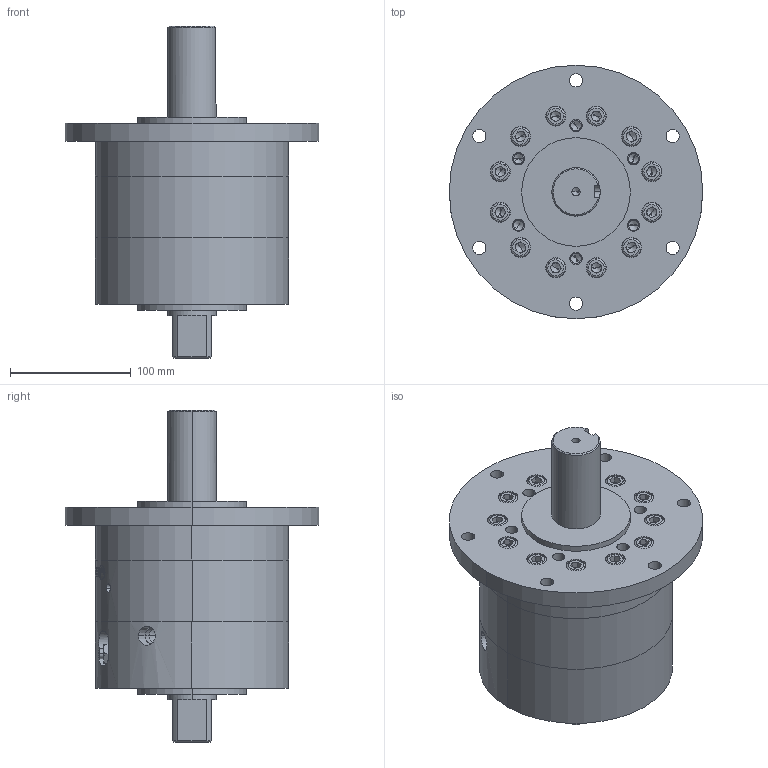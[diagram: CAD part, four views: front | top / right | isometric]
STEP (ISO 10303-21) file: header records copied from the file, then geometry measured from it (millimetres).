
FILE_DESCRIPTION (( 'STEP AP203' ), '1' );
FILE_NAME ('HRN200S-C.STEP', '2016-01-14T17:01:01', ( '' ), ( '' ), 'SwSTEP 2.0', 'SolidWorks 2014', '' );
FILE_SCHEMA (( 'CONFIG_CONTROL_DESIGN' ));
Length unit declared in the file: millimetre
Products named in the file (9): 4; mark-200C; 3.3; 1; ISO 4762 M10 x 25; 3; HRN200S-C; 2; 5
Assembly tree (32 placements, depth 2):
  HRN200S-C
    1
    2
    3
    3.3  x2
    4
    5
    ISO 4762 M10 x 25  x24
    mark-200C
Bounding box: 210 x 210 x 275 mm (x, y, z)
Volume: 3423627.2 mm3; surface area: 387585.5 mm2
Topology: 38 solids, 38 shells, 1045 faces, 2343 edges, 1390 vertices
Faces by surface type: plane 480, cylinder 260, cone 174, torus 96, bspline 35
Entity records: 16397 total; most frequent: CARTESIAN_POINT 5822, DIRECTION 1906, ORIENTED_EDGE 1794, EDGE_CURVE 897, AXIS2_PLACEMENT_3D 778, VERTEX_POINT 583, EDGE_LOOP 486, ADVANCED_FACE 394
